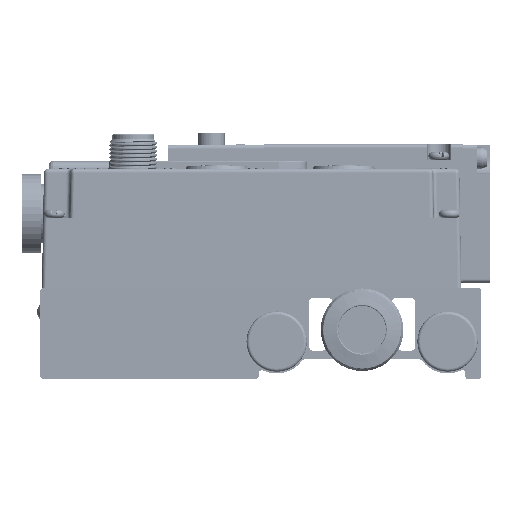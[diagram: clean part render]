
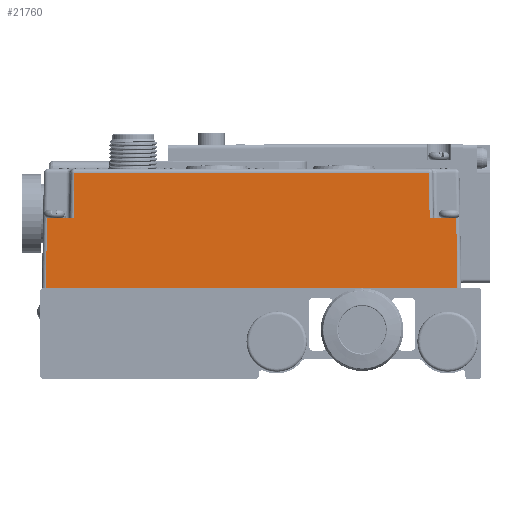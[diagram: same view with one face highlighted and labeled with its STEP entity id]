
A CAD part, front view. The second image highlights one B-rep face of the part: STEP entity #21760.
In plain terms, the highlighted planar face has unit normal (0, -1, 0.018).
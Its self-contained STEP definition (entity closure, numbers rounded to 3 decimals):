
#821 = CARTESIAN_POINT ( 'NONE',  ( -105.2, 14.5, 26. ) ) ;
#2629 = VECTOR ( 'NONE', #52245, 1000. ) ;
#3636 = VECTOR ( 'NONE', #169395, 1000. ) ;
#6971 = VECTOR ( 'NONE', #52234, 1000. ) ;
#7151 = LINE ( 'NONE', #33211, #26510 ) ;
#11194 = LINE ( 'NONE', #184780, #3636 ) ;
#12269 = LINE ( 'NONE', #73870, #42030 ) ;
#16221 = ORIENTED_EDGE ( 'NONE', *, *, #173206, .F. ) ;
#19739 = VERTEX_POINT ( 'NONE', #25828 ) ;
#21701 = ORIENTED_EDGE ( 'NONE', *, *, #117689, .F. ) ;
#21760 = ADVANCED_FACE ( 'NONE', ( #61058 ), #33103, .F. ) ;
#22280 = VECTOR ( 'NONE', #117713, 1000. ) ;
#22617 = AXIS2_PLACEMENT_3D ( 'NONE', #147836, #30245, #149743 ) ;
#23187 = ORIENTED_EDGE ( 'NONE', *, *, #183231, .F. ) ;
#23525 = CARTESIAN_POINT ( 'NONE',  ( -8.798, 15.006, 55.017 ) ) ;
#25828 = CARTESIAN_POINT ( 'NONE',  ( -98.2, 14.809, 43.7 ) ) ;
#26510 = VECTOR ( 'NONE', #48613, 1000. ) ;
#30245 = DIRECTION ( 'NONE',  ( 0., 1., -0.017 ) ) ;
#33103 = PLANE ( 'NONE',  #22617 ) ;
#33211 = CARTESIAN_POINT ( 'NONE',  ( -98.2, 14.809, 43.7 ) ) ;
#34303 = VERTEX_POINT ( 'NONE', #89397 ) ;
#34561 = ORIENTED_EDGE ( 'NONE', *, *, #95705, .F. ) ;
#42030 = VECTOR ( 'NONE', #100945, 1000. ) ;
#44868 = CARTESIAN_POINT ( 'NONE',  ( -1.6, 14.5, 26. ) ) ;
#48613 = DIRECTION ( 'NONE',  ( 0.017, 0.017, 1. ) ) ;
#50940 = VERTEX_POINT ( 'NONE', #23525 ) ;
#52234 = DIRECTION ( 'NONE',  ( 1., 0., 0. ) ) ;
#52245 = DIRECTION ( 'NONE',  ( 0.017, -0.017, -1. ) ) ;
#53564 = CARTESIAN_POINT ( 'NONE',  ( -1.909, 14.808, 43.7 ) ) ;
#53694 = DIRECTION ( 'NONE',  ( 0.017, 0.017, 1. ) ) ;
#60049 = CARTESIAN_POINT ( 'NONE',  ( 0.847, 14.808, 43.7 ) ) ;
#61058 = FACE_OUTER_BOUND ( 'NONE', #107847, .T. ) ;
#62277 = ORIENTED_EDGE ( 'NONE', *, *, #123345, .F. ) ;
#64231 = ORIENTED_EDGE ( 'NONE', *, *, #146702, .F. ) ;
#66340 = ORIENTED_EDGE ( 'NONE', *, *, #89684, .F. ) ;
#66840 = VERTEX_POINT ( 'NONE', #44868 ) ;
#70039 = LINE ( 'NONE', #174203, #89467 ) ;
#73870 = CARTESIAN_POINT ( 'NONE',  ( 0.847, 14.808, 43.7 ) ) ;
#81141 = LINE ( 'NONE', #137122, #6971 ) ;
#89397 = CARTESIAN_POINT ( 'NONE',  ( -8.6, 14.809, 43.7 ) ) ;
#89467 = VECTOR ( 'NONE', #53694, 1000. ) ;
#89684 = EDGE_CURVE ( 'NONE', #66840, #151638, #11194, .T. ) ;
#95640 = LINE ( 'NONE', #124594, #2629 ) ;
#95705 = EDGE_CURVE ( 'NONE', #50940, #34303, #133131, .T. ) ;
#98575 = VECTOR ( 'NONE', #177685, 1000. ) ;
#100945 = DIRECTION ( 'NONE',  ( 1., 0., 0. ) ) ;
#107847 = EDGE_LOOP ( 'NONE', ( #64231, #21701, #66340, #145176, #62277, #34561, #16221, #23187 ) ) ;
#117689 = EDGE_CURVE ( 'NONE', #151638, #182424, #70039, .T. ) ;
#117713 = DIRECTION ( 'NONE',  ( 0.017, -0.017, -1. ) ) ;
#122587 = CARTESIAN_POINT ( 'NONE',  ( -104.891, 14.809, 43.7 ) ) ;
#123345 = EDGE_CURVE ( 'NONE', #34303, #133145, #180562, .T. ) ;
#124594 = CARTESIAN_POINT ( 'NONE',  ( -1.909, 14.808, 43.7 ) ) ;
#132334 = CARTESIAN_POINT ( 'NONE',  ( -98.003, 15.006, 55.017 ) ) ;
#133131 = LINE ( 'NONE', #147577, #22280 ) ;
#133145 = VERTEX_POINT ( 'NONE', #53564 ) ;
#136068 = VERTEX_POINT ( 'NONE', #132334 ) ;
#137122 = CARTESIAN_POINT ( 'NONE',  ( -98.003, 15.006, 55.017 ) ) ;
#145176 = ORIENTED_EDGE ( 'NONE', *, *, #151090, .F. ) ;
#146702 = EDGE_CURVE ( 'NONE', #182424, #19739, #12269, .T. ) ;
#147577 = CARTESIAN_POINT ( 'NONE',  ( -8.798, 15.006, 55.017 ) ) ;
#147836 = CARTESIAN_POINT ( 'NONE',  ( 0.847, 14.5, 26. ) ) ;
#149743 = DIRECTION ( 'NONE',  ( -1., 0., 0. ) ) ;
#151090 = EDGE_CURVE ( 'NONE', #133145, #66840, #95640, .T. ) ;
#151638 = VERTEX_POINT ( 'NONE', #821 ) ;
#169395 = DIRECTION ( 'NONE',  ( -1., 0., 0. ) ) ;
#173206 = EDGE_CURVE ( 'NONE', #136068, #50940, #81141, .T. ) ;
#174203 = CARTESIAN_POINT ( 'NONE',  ( -104.891, 14.809, 43.7 ) ) ;
#177685 = DIRECTION ( 'NONE',  ( 1., 0., 0. ) ) ;
#180562 = LINE ( 'NONE', #60049, #98575 ) ;
#182424 = VERTEX_POINT ( 'NONE', #122587 ) ;
#183231 = EDGE_CURVE ( 'NONE', #19739, #136068, #7151, .T. ) ;
#184780 = CARTESIAN_POINT ( 'NONE',  ( -1.6, 14.5, 26. ) ) ;
